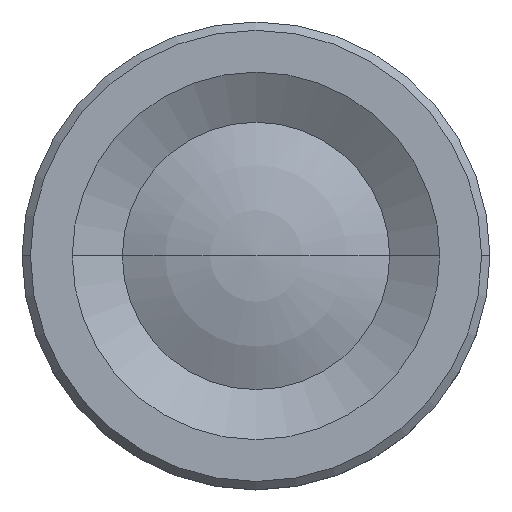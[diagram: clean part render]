
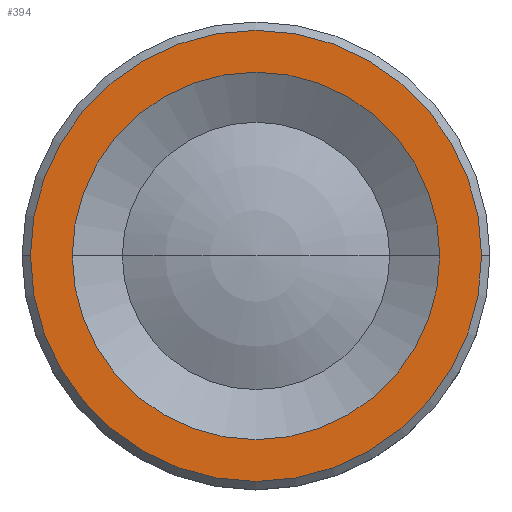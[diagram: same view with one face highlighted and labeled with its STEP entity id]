
A CAD part, top view. The second image highlights one B-rep face of the part: STEP entity #394.
In plain terms, the highlighted planar face has unit normal (0, 0, 1).
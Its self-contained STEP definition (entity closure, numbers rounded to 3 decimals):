
#39 = EDGE_CURVE ( 'NONE', #692, #936, #768, .T. ) ;
#48 = VERTEX_POINT ( 'NONE', #457 ) ;
#50 = AXIS2_PLACEMENT_3D ( 'NONE', #121, #786, #715 ) ;
#89 = AXIS2_PLACEMENT_3D ( 'NONE', #261, #113, #852 ) ;
#113 = DIRECTION ( 'NONE',  ( 0., 0., -1. ) ) ;
#121 = CARTESIAN_POINT ( 'NONE',  ( 0., 0., 15.35 ) ) ;
#142 = ORIENTED_EDGE ( 'NONE', *, *, #663, .T. ) ;
#154 = FACE_OUTER_BOUND ( 'NONE', #569, .T. ) ;
#181 = EDGE_CURVE ( 'NONE', #48, #643, #626, .T. ) ;
#261 = CARTESIAN_POINT ( 'NONE',  ( 0., 0., 15.35 ) ) ;
#355 = CARTESIAN_POINT ( 'NONE',  ( 0., 0., 15.35 ) ) ;
#371 = EDGE_CURVE ( 'NONE', #643, #48, #797, .T. ) ;
#374 = ORIENTED_EDGE ( 'NONE', *, *, #181, .T. ) ;
#394 = ADVANCED_FACE ( 'NONE', ( #154, #769 ), #787, .F. ) ;
#411 = CARTESIAN_POINT ( 'NONE',  ( 5.5, 0., 15.35 ) ) ;
#435 = EDGE_LOOP ( 'NONE', ( #567, #142 ) ) ;
#434 = DIRECTION ( 'NONE',  ( -1., 0., 0. ) ) ;
#457 = CARTESIAN_POINT ( 'NONE',  ( -6.75, 0., 15.35 ) ) ;
#504 = DIRECTION ( 'NONE',  ( -1., 0., 0. ) ) ;
#548 = CARTESIAN_POINT ( 'NONE',  ( 6.75, 0., 15.35 ) ) ;
#563 = DIRECTION ( 'NONE',  ( 0., 0., 1. ) ) ;
#567 = ORIENTED_EDGE ( 'NONE', *, *, #39, .T. ) ;
#569 = EDGE_LOOP ( 'NONE', ( #374, #849 ) ) ;
#580 = CIRCLE ( 'NONE', #89, 5.5 ) ;
#626 = CIRCLE ( 'NONE', #864, 6.75 ) ;
#643 = VERTEX_POINT ( 'NONE', #548 ) ;
#658 = AXIS2_PLACEMENT_3D ( 'NONE', #793, #563, #504 ) ;
#663 = EDGE_CURVE ( 'NONE', #936, #692, #580, .T. ) ;
#664 = DIRECTION ( 'NONE',  ( 0., 0., -1. ) ) ;
#671 = DIRECTION ( 'NONE',  ( -1., 0., 0. ) ) ;
#692 = VERTEX_POINT ( 'NONE', #411 ) ;
#715 = DIRECTION ( 'NONE',  ( -1., 0., 0. ) ) ;
#733 = AXIS2_PLACEMENT_3D ( 'NONE', #885, #664, #671 ) ;
#768 = CIRCLE ( 'NONE', #733, 5.5 ) ;
#769 = FACE_BOUND ( 'NONE', #435, .T. ) ;
#786 = DIRECTION ( 'NONE',  ( 0., 0., -1. ) ) ;
#787 = PLANE ( 'NONE',  #50 ) ;
#793 = CARTESIAN_POINT ( 'NONE',  ( 0., 0., 15.35 ) ) ;
#797 = CIRCLE ( 'NONE', #658, 6.75 ) ;
#849 = ORIENTED_EDGE ( 'NONE', *, *, #371, .T. ) ;
#852 = DIRECTION ( 'NONE',  ( -1., 0., 0. ) ) ;
#864 = AXIS2_PLACEMENT_3D ( 'NONE', #355, #869, #434 ) ;
#869 = DIRECTION ( 'NONE',  ( 0., 0., 1. ) ) ;
#885 = CARTESIAN_POINT ( 'NONE',  ( 0., 0., 15.35 ) ) ;
#915 = CARTESIAN_POINT ( 'NONE',  ( -5.5, 0., 15.35 ) ) ;
#936 = VERTEX_POINT ( 'NONE', #915 ) ;
